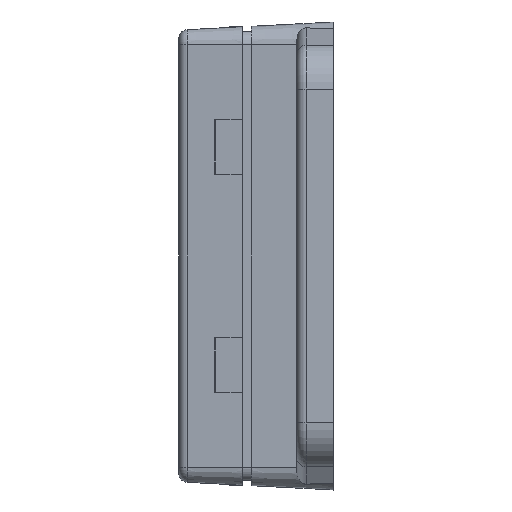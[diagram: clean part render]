
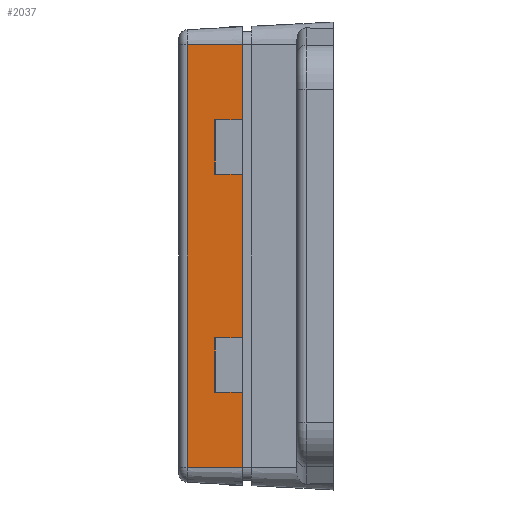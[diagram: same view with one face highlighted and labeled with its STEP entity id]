
A CAD part, left-side view. The second image highlights one B-rep face of the part: STEP entity #2037.
In plain terms, the highlighted planar face has unit normal (-0.999, 0.052, 0).
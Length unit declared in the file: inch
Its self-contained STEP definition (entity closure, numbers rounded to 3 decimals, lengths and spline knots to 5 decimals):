
#39 = VECTOR ( 'NONE', #1425, 39.37008 ) ;
#70 = DIRECTION ( 'NONE',  ( 0., 0., 1. ) ) ;
#118 = EDGE_CURVE ( 'NONE', #1446, #2337, #1419, .T. ) ;
#155 = DIRECTION ( 'NONE',  ( -0.052, -0.999, 0. ) ) ;
#212 = CARTESIAN_POINT ( 'NONE',  ( -0.98425, 0.3937, -0.35433 ) ) ;
#292 = VERTEX_POINT ( 'NONE', #4761 ) ;
#515 = DIRECTION ( 'NONE',  ( 0., 0., 1. ) ) ;
#720 = VERTEX_POINT ( 'NONE', #1279 ) ;
#839 = DIRECTION ( 'NONE',  ( -0.052, -0.999, 0. ) ) ;
#877 = CARTESIAN_POINT ( 'NONE',  ( -0.98425, 0.3937, 0.59055 ) ) ;
#973 = VECTOR ( 'NONE', #515, 39.37008 ) ;
#1108 = VECTOR ( 'NONE', #5297, 39.37008 ) ;
#1158 = EDGE_CURVE ( 'NONE', #2337, #5462, #2933, .T. ) ;
#1179 = VECTOR ( 'NONE', #1424, 39.37008 ) ;
#1239 = DIRECTION ( 'NONE',  ( 0.052, 0.999, 0. ) ) ;
#1264 = CARTESIAN_POINT ( 'NONE',  ( -0.98425, 0.3937, -0.59055 ) ) ;
#1279 = CARTESIAN_POINT ( 'NONE',  ( -0.97176, 0.63198, -0.91339 ) ) ;
#1385 = ORIENTED_EDGE ( 'NONE', *, *, #5944, .T. ) ;
#1419 = LINE ( 'NONE', #877, #4339 ) ;
#1421 = VECTOR ( 'NONE', #70, 39.37008 ) ;
#1423 = CARTESIAN_POINT ( 'NONE',  ( -0.97794, 0.5142, 0.59055 ) ) ;
#1424 = DIRECTION ( 'NONE',  ( 0., 0., 1. ) ) ;
#1425 = DIRECTION ( 'NONE',  ( 0., 0., 1. ) ) ;
#1434 = EDGE_CURVE ( 'NONE', #4012, #3783, #2213, .T. ) ;
#1446 = VERTEX_POINT ( 'NONE', #1423 ) ;
#1472 = LINE ( 'NONE', #3863, #1108 ) ;
#1528 = ORIENTED_EDGE ( 'NONE', *, *, #5777, .T. ) ;
#1601 = ORIENTED_EDGE ( 'NONE', *, *, #118, .T. ) ;
#1749 = ORIENTED_EDGE ( 'NONE', *, *, #1158, .T. ) ;
#1750 = EDGE_CURVE ( 'NONE', #1824, #292, #1472, .T. ) ;
#1781 = PLANE ( 'NONE',  #5390 ) ;
#1794 = EDGE_CURVE ( 'NONE', #720, #5041, #3807, .T. ) ;
#1797 = DIRECTION ( 'NONE',  ( -0.999, 0.052, 0. ) ) ;
#1824 = VERTEX_POINT ( 'NONE', #5744 ) ;
#1840 = ORIENTED_EDGE ( 'NONE', *, *, #4151, .T. ) ;
#1886 = ORIENTED_EDGE ( 'NONE', *, *, #1434, .T. ) ;
#1968 = EDGE_LOOP ( 'NONE', ( #5685, #1840, #2138, #1528, #1886, #4456, #1385, #1601, #1749, #4812, #2392, #4604 ) ) ;
#2037 = ADVANCED_FACE ( 'NONE', ( #2919 ), #1781, .T. ) ;
#2041 = CARTESIAN_POINT ( 'NONE',  ( -0.98425, 0.3937, 0.91339 ) ) ;
#2138 = ORIENTED_EDGE ( 'NONE', *, *, #1750, .T. ) ;
#2158 = CARTESIAN_POINT ( 'NONE',  ( -0.98425, 0.3937, -0.91339 ) ) ;
#2213 = LINE ( 'NONE', #5670, #973 ) ;
#2337 = VERTEX_POINT ( 'NONE', #4048 ) ;
#2351 = CARTESIAN_POINT ( 'NONE',  ( -0.97176, 0.63198, -0.91339 ) ) ;
#2392 = ORIENTED_EDGE ( 'NONE', *, *, #3399, .F. ) ;
#2407 = VECTOR ( 'NONE', #839, 39.37008 ) ;
#2462 = CARTESIAN_POINT ( 'NONE',  ( -0.98425, 0.3937, 0.91339 ) ) ;
#2531 = EDGE_CURVE ( 'NONE', #3783, #3923, #4893, .T. ) ;
#2535 = DIRECTION ( 'NONE',  ( 0.052, 0.999, 0. ) ) ;
#2866 = VECTOR ( 'NONE', #3569, 39.37008 ) ;
#2867 = VECTOR ( 'NONE', #1239, 39.37008 ) ;
#2873 = LINE ( 'NONE', #2462, #5370 ) ;
#2919 = FACE_OUTER_BOUND ( 'NONE', #1968, .T. ) ;
#2933 = LINE ( 'NONE', #3094, #2866 ) ;
#2967 = DIRECTION ( 'NONE',  ( 0.052, 0.999, 0. ) ) ;
#3077 = VECTOR ( 'NONE', #155, 39.37008 ) ;
#3094 = CARTESIAN_POINT ( 'NONE',  ( -0.98425, 0.3937, -0.99213 ) ) ;
#3163 = DIRECTION ( 'NONE',  ( -0.052, -0.999, 0. ) ) ;
#3214 = VERTEX_POINT ( 'NONE', #5482 ) ;
#3302 = CARTESIAN_POINT ( 'NONE',  ( -0.97794, 0.5142, -0.99213 ) ) ;
#3399 = EDGE_CURVE ( 'NONE', #720, #3214, #4775, .T. ) ;
#3569 = DIRECTION ( 'NONE',  ( 0., 0., 1. ) ) ;
#3653 = CARTESIAN_POINT ( 'NONE',  ( -0.98425, 0.3937, 0.35433 ) ) ;
#3654 = LINE ( 'NONE', #4105, #2407 ) ;
#3727 = DIRECTION ( 'NONE',  ( -0.052, -0.999, 0. ) ) ;
#3783 = VERTEX_POINT ( 'NONE', #3653 ) ;
#3807 = LINE ( 'NONE', #4853, #3077 ) ;
#3863 = CARTESIAN_POINT ( 'NONE',  ( -0.97794, 0.5142, -0.99213 ) ) ;
#3923 = VERTEX_POINT ( 'NONE', #5307 ) ;
#3946 = EDGE_CURVE ( 'NONE', #5462, #3214, #2873, .T. ) ;
#4012 = VERTEX_POINT ( 'NONE', #212 ) ;
#4048 = CARTESIAN_POINT ( 'NONE',  ( -0.98425, 0.3937, 0.59055 ) ) ;
#4105 = CARTESIAN_POINT ( 'NONE',  ( -0.98425, 0.3937, -0.35433 ) ) ;
#4151 = EDGE_CURVE ( 'NONE', #4214, #1824, #6028, .T. ) ;
#4214 = VERTEX_POINT ( 'NONE', #5900 ) ;
#4339 = VECTOR ( 'NONE', #3727, 39.37008 ) ;
#4377 = EDGE_CURVE ( 'NONE', #5041, #4214, #4836, .T. ) ;
#4456 = ORIENTED_EDGE ( 'NONE', *, *, #2531, .T. ) ;
#4604 = ORIENTED_EDGE ( 'NONE', *, *, #1794, .T. ) ;
#4761 = CARTESIAN_POINT ( 'NONE',  ( -0.97794, 0.5142, -0.35433 ) ) ;
#4775 = LINE ( 'NONE', #2351, #1421 ) ;
#4812 = ORIENTED_EDGE ( 'NONE', *, *, #3946, .T. ) ;
#4818 = CARTESIAN_POINT ( 'NONE',  ( -0.98425, 0.3937, 0.35433 ) ) ;
#4826 = LINE ( 'NONE', #3302, #1179 ) ;
#4836 = LINE ( 'NONE', #5242, #39 ) ;
#4853 = CARTESIAN_POINT ( 'NONE',  ( -0.98425, 0.3937, -0.91339 ) ) ;
#4893 = LINE ( 'NONE', #4818, #5644 ) ;
#5041 = VERTEX_POINT ( 'NONE', #2158 ) ;
#5242 = CARTESIAN_POINT ( 'NONE',  ( -0.98425, 0.3937, -0.99213 ) ) ;
#5297 = DIRECTION ( 'NONE',  ( 0., 0., 1. ) ) ;
#5307 = CARTESIAN_POINT ( 'NONE',  ( -0.97794, 0.5142, 0.35433 ) ) ;
#5370 = VECTOR ( 'NONE', #2967, 39.37008 ) ;
#5390 = AXIS2_PLACEMENT_3D ( 'NONE', #5524, #1797, #3163 ) ;
#5462 = VERTEX_POINT ( 'NONE', #2041 ) ;
#5482 = CARTESIAN_POINT ( 'NONE',  ( -0.97176, 0.63198, 0.91339 ) ) ;
#5524 = CARTESIAN_POINT ( 'NONE',  ( -0.98425, 0.3937, -0.99213 ) ) ;
#5644 = VECTOR ( 'NONE', #2535, 39.37008 ) ;
#5670 = CARTESIAN_POINT ( 'NONE',  ( -0.98425, 0.3937, -0.99213 ) ) ;
#5685 = ORIENTED_EDGE ( 'NONE', *, *, #4377, .T. ) ;
#5744 = CARTESIAN_POINT ( 'NONE',  ( -0.97794, 0.5142, -0.59055 ) ) ;
#5777 = EDGE_CURVE ( 'NONE', #292, #4012, #3654, .T. ) ;
#5900 = CARTESIAN_POINT ( 'NONE',  ( -0.98425, 0.3937, -0.59055 ) ) ;
#5944 = EDGE_CURVE ( 'NONE', #3923, #1446, #4826, .T. ) ;
#6028 = LINE ( 'NONE', #1264, #2867 ) ;
